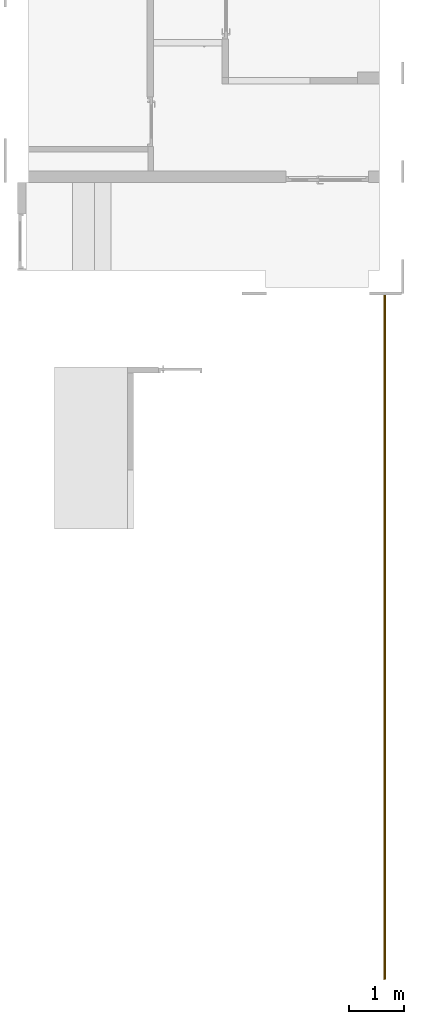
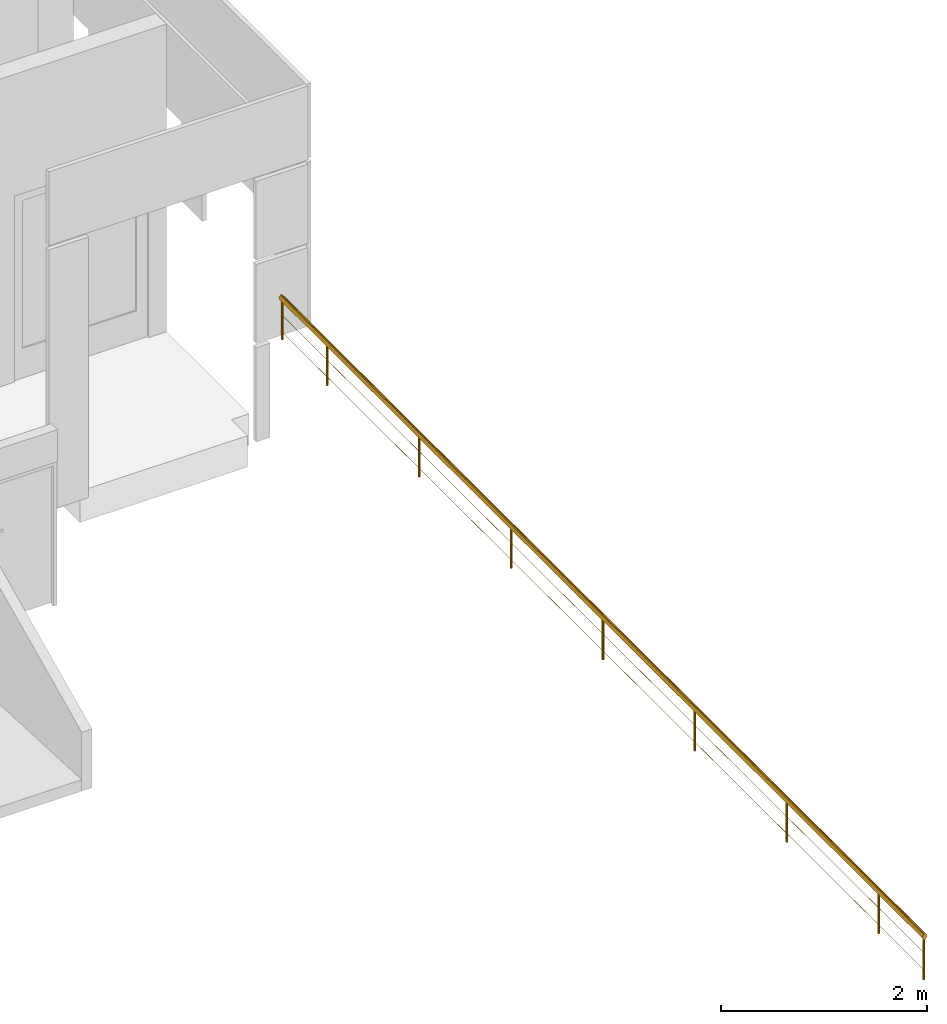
# One storey, part 8 of 15: 1 railing.
"""IFC2X3 building model written with IfcOpenShell, lengths in millimetres."""

import ifcopenshell
import ifcopenshell.guid

model = None  # the IFC model being written
_history = None  # IfcOwnerHistory: only IFC2X3 demands one
_inside = {}  # id of a spatial element -> (the spatial element, [elements in it])
_under = {}  # id of a project, library or spatial element -> (it, [spatial elements below it])
_declared = {}  # id of a project -> (the project, [libraries it declares])
_typed = {}  # id of a type object -> (the type object, [elements of that type])
_made_of = {}  # id of a material, layer set ... -> (it, [elements and type objects made of it])


def new_model(schema):
    """Start an empty IFC model of exactly this schema.

    Asked for "IFC4X3", IfcOpenShell would pick the latest addendum, in which some entities
    have other attributes; the version numbers below select the first issue.
    IFC2X3 requires an IfcOwnerHistory on every rooted entity: one is made here for all.
    """
    global model, _history
    if schema == "IFC4X3":
        model = ifcopenshell.file(schema_version=(4, 3, 0, 0))
    else:
        model = ifcopenshell.file(schema=schema)
    _inside.clear()
    _under.clear()
    _declared.clear()
    _typed.clear()
    _made_of.clear()
    _history = None
    if model.schema == "IFC2X3":
        org = make("IfcOrganization", Name="unknown")
        user = make(
            "IfcPersonAndOrganization",
            ThePerson=make("IfcPerson", FamilyName="unknown"),
            TheOrganization=org,
        )
        app = make(
            "IfcApplication",
            ApplicationDeveloper=org,
            Version="unknown",
            ApplicationFullName="unknown",
            ApplicationIdentifier="unknown",
        )
        _history = make(
            "IfcOwnerHistory",
            OwningUser=user,
            OwningApplication=app,
            ChangeAction="ADDED",
            CreationDate=0,
        )
    return model


def make(cls, **values):
    """One entity of the class cls with the attributes given. An attribute that is None is left unset."""
    return model.create_entity(
        cls, **{name: value for name, value in values.items() if value is not None}
    )


def entity(cls, *values):
    """Any entity or typed value of the class cls, its attributes in the order of the schema. None: left unset."""
    e = model.create_entity(cls)
    for i, value in enumerate(values):
        if value is not None:
            e[i] = value
    return e


def rooted(cls, **values):
    """An entity with a GlobalId (a new one), such as an element, a storey or a relation."""
    return make(cls, GlobalId=ifcopenshell.guid.new(), OwnerHistory=_history, **values)


def si_unit(unit_type, name, prefix=None):
    """IfcSIUnit, for example si_unit("LENGTHUNIT", "METRE", prefix="MILLI")."""
    return make("IfcSIUnit", UnitType=unit_type, Prefix=prefix, Name=name)


def converted_unit(unit_type, name, factor, base, dimensions=None, offset=None):
    """IfcConversionBasedUnit, such as the inch: factor (a typed value) times the base unit."""
    return make(
        "IfcConversionBasedUnit"
        if offset is None
        else "IfcConversionBasedUnitWithOffset",
        ConversionOffset=offset,
        Dimensions=None
        if dimensions is None
        else entity("IfcDimensionalExponents", *dimensions),
        UnitType=unit_type,
        Name=name,
        ConversionFactor=make(
            "IfcMeasureWithUnit", ValueComponent=factor, UnitComponent=base
        ),
    )


def derived_unit(unit_type, elements):
    """IfcDerivedUnit: a product of units, each with its exponent."""
    return make(
        "IfcDerivedUnit",
        Elements=[
            make("IfcDerivedUnitElement", Unit=unit, Exponent=power)
            for unit, power in elements
        ],
        UnitType=unit_type,
    )


def assignment(units):
    """IfcUnitAssignment: the units of a project."""
    return None if units is None else make("IfcUnitAssignment", Units=units)


def point(xyz):
    """IfcCartesianPoint."""
    return None if xyz is None else make("IfcCartesianPoint", Coordinates=xyz)


def direction(xyz):
    """IfcDirection."""
    return None if xyz is None else make("IfcDirection", DirectionRatios=xyz)


def frame(location, z_axis=None, x_axis=None):
    """IfcAxis2Placement3D, a coordinate frame: its origin and axes. An axis left out is left unset."""
    return make(
        "IfcAxis2Placement3D",
        Location=point(location),
        Axis=direction(z_axis),
        RefDirection=direction(x_axis),
    )


def frame_2d(location, x_axis=None):
    """IfcAxis2Placement2D, a coordinate frame in the plane: its origin and x axis."""
    return make(
        "IfcAxis2Placement2D", Location=point(location), RefDirection=direction(x_axis)
    )


def origin():
    """The frame at (0, 0, 0) with its axes left unset."""
    return frame((0.0, 0.0, 0.0))


def origin_2d_with_axis():
    """The frame at (0, 0) in the plane with the x axis (1, 0) written out."""
    return frame_2d((0.0, 0.0), x_axis=(1.0, 0.0))


def place(relative_to, where):
    """IfcLocalPlacement: puts the frame where relative to a parent placement (None: the world)."""
    return make(
        "IfcLocalPlacement", PlacementRelTo=relative_to, RelativePlacement=where
    )


def context(
    kind, dimensions, precision=None, world=None, true_north=None, identifier=None
):
    """IfcGeometricRepresentationContext, for example the 3D "Model" context."""
    return make(
        "IfcGeometricRepresentationContext",
        ContextIdentifier=identifier,
        ContextType=kind,
        CoordinateSpaceDimension=dimensions,
        Precision=precision,
        WorldCoordinateSystem=world,
        TrueNorth=true_north,
    )


def subcontext(parent, identifier, kind, view, scale=None):
    """IfcGeometricRepresentationSubContext, for example "Body" below "Model"."""
    return make(
        "IfcGeometricRepresentationSubContext",
        ContextIdentifier=identifier,
        ContextType=kind,
        ParentContext=parent,
        TargetScale=scale,
        TargetView=view,
    )


def project(units=None, contexts=None):
    """IfcProject with its units and contexts."""
    return rooted(
        "IfcProject",
        Name="project",
        RepresentationContexts=contexts,
        UnitsInContext=assignment(units),
    )


def spatial(cls, under=None, at=None, **own):
    """A site, building, storey or space (cls), placed at a placement, below another one or the project."""
    s = rooted(cls, ObjectPlacement=at, **own)
    if under is not None:
        _under.setdefault(under.id(), (under, []))[1].append(s)
    return s


def polyline(points):
    """IfcPolyline through the points."""
    return make("IfcPolyline", Points=[point(p) for p in points])


def profile(cls, at=None, kind="AREA", **sizes):
    """A parametric profile (cls). Its sizes go by their IFC names, for example OverallWidth=200.0."""
    return make(cls, ProfileType=kind, Position=at, **sizes)


def circle(**sizes):
    """IfcCircleProfileDef."""
    return profile("IfcCircleProfileDef", **sizes)


def outline(outer, holes=None, kind="AREA"):
    """IfcArbitraryClosedProfileDef: a profile drawn as a closed curve; with holes, ...WithVoids."""
    if holes is None:
        return make("IfcArbitraryClosedProfileDef", ProfileType=kind, OuterCurve=outer)
    return make(
        "IfcArbitraryProfileDefWithVoids",
        ProfileType=kind,
        OuterCurve=outer,
        InnerCurves=holes,
    )


def extrude(swept, where, along, depth):
    """IfcExtrudedAreaSolid: the profile swept, set in the frame where, extruded along a direction by depth."""
    return make(
        "IfcExtrudedAreaSolid",
        SweptArea=swept,
        Position=where,
        ExtrudedDirection=direction(along),
        Depth=depth,
    )


def shape(context_of_items, identifier, shape_type, items):
    """IfcShapeRepresentation: the items that make up one representation, for example the "Body"."""
    return make(
        "IfcShapeRepresentation",
        ContextOfItems=context_of_items,
        RepresentationIdentifier=identifier,
        RepresentationType=shape_type,
        Items=items,
    )


def material(Name=None, Category=None):
    """IfcMaterial."""
    return make("IfcMaterial", Name=Name, Category=Category)


def made_of(thing, what):
    """Note that an element or type object is made of a material, layer set ...; save() writes the relation."""
    if what is not None:
        _made_of.setdefault(what.id(), (what, []))[1].append(thing)
    return thing


def element(
    cls,
    number,
    at=None,
    inside=None,
    cuts=None,
    type_object=None,
    material=None,
    context=None,
    identifier="Body",
    shape_type=None,
    held_by="IfcProductDefinitionShape",
    body=None,
    shapes=None,
    **own,
):
    """One element of the class cls, such as IfcWall. Its Tag is "e" and its number.

    at: its placement. inside: the storey or other place that contains it. cuts: it is an
    opening in that element (IfcRelVoidsElement). A single representation is given by context,
    identifier, shape_type and body (its items); several are given by shapes. held_by: the class
    of the entity that holds the representations. save() writes the other relations.
    """
    e = rooted(cls, Tag="e%d" % number, ObjectPlacement=at, **own)
    if body is not None:
        shapes = [shape(context, identifier, shape_type, body)]
    if shapes is not None:
        e.Representation = make(held_by, Representations=shapes)
    if inside is not None:
        _inside.setdefault(inside.id(), (inside, []))[1].append(e)
    if cuts is not None:
        rooted(
            "IfcRelVoidsElement", RelatingBuildingElement=cuts, RelatedOpeningElement=e
        )
    if type_object is not None:
        _typed.setdefault(type_object.id(), (type_object, []))[1].append(e)
    return made_of(e, material)


def aggregate(whole, parts):
    """IfcRelAggregates: a whole, such as a stair, and the parts it consists of."""
    return rooted("IfcRelAggregates", RelatingObject=whole, RelatedObjects=parts)


def save(model, path):
    """Write the relations noted so far, then the file.

    IfcRelAggregates (storeys below a building ...), IfcRelContainedInSpatialStructure (elements
    in a storey), IfcRelDefinesByType, IfcRelAssociatesMaterial and IfcRelDeclares: one each for
    every whole, place, type object, material and project.
    """
    for whole, parts in _under.values():
        aggregate(whole, parts)
    for where, things in _inside.values():
        rooted(
            "IfcRelContainedInSpatialStructure",
            RelatedElements=things,
            RelatingStructure=where,
        )
    for kind, things in _typed.values():
        rooted("IfcRelDefinesByType", RelatedObjects=things, RelatingType=kind)
    for what, things in _made_of.values():
        rooted("IfcRelAssociatesMaterial", RelatedObjects=things, RelatingMaterial=what)
    for by, libraries in _declared.values():
        rooted("IfcRelDeclares", RelatingContext=by, RelatedDefinitions=libraries)
    model.write(path)


model = new_model("IFC2X3")

# Units and contexts
model_context = context("Model", 3, precision=0.01, world=origin(), true_north=direction((6.12303176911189e-17, 1.0)))
body_context = subcontext(model_context, "Body", "Model", "MODEL_VIEW")
ifc_project = project(units=[si_unit("LENGTHUNIT", "METRE", prefix="MILLI"), si_unit("AREAUNIT", "SQUARE_METRE"), si_unit("VOLUMEUNIT", "CUBIC_METRE"), converted_unit("PLANEANGLEUNIT", "DEGREE", entity("IfcRatioMeasure", 0.0174532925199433), si_unit("PLANEANGLEUNIT", "RADIAN"), dimensions=[0, 0, 0, 0, 0, 0, 0]), si_unit("MASSUNIT", "GRAM", prefix="KILO"), derived_unit("MASSDENSITYUNIT", [(si_unit("MASSUNIT", "GRAM", prefix="KILO"), 1), (si_unit("LENGTHUNIT", "METRE"), -3)]), si_unit("TIMEUNIT", "SECOND"), si_unit("FREQUENCYUNIT", "HERTZ"), si_unit("THERMODYNAMICTEMPERATUREUNIT", "DEGREE_CELSIUS"), derived_unit("THERMALTRANSMITTANCEUNIT", [(si_unit("MASSUNIT", "GRAM", prefix="KILO"), 1), (si_unit("THERMODYNAMICTEMPERATUREUNIT", "KELVIN"), -1), (si_unit("TIMEUNIT", "SECOND"), -3)]), derived_unit("VOLUMETRICFLOWRATEUNIT", [(si_unit("LENGTHUNIT", "METRE"), 3), (si_unit("TIMEUNIT", "SECOND"), -1)]), si_unit("ELECTRICCURRENTUNIT", "AMPERE"), si_unit("ELECTRICVOLTAGEUNIT", "VOLT"), si_unit("POWERUNIT", "WATT"), si_unit("FORCEUNIT", "NEWTON", prefix="KILO"), si_unit("ILLUMINANCEUNIT", "LUX"), si_unit("LUMINOUSFLUXUNIT", "LUMEN"), si_unit("LUMINOUSINTENSITYUNIT", "CANDELA"), derived_unit("USERDEFINED", [(si_unit("MASSUNIT", "GRAM", prefix="KILO"), -1), (si_unit("LENGTHUNIT", "METRE"), -2), (si_unit("TIMEUNIT", "SECOND"), 3), (si_unit("LUMINOUSFLUXUNIT", "LUMEN"), 1)]), derived_unit("LINEARVELOCITYUNIT", [(si_unit("LENGTHUNIT", "METRE"), 1), (si_unit("TIMEUNIT", "SECOND"), -1)]), si_unit("PRESSUREUNIT", "PASCAL"), derived_unit("USERDEFINED", [(si_unit("LENGTHUNIT", "METRE"), -2), (si_unit("MASSUNIT", "GRAM", prefix="KILO"), 1), (si_unit("TIMEUNIT", "SECOND"), -2)])], contexts=[model_context])

# Site, building, storey
site_placement = place(None, frame((-151.875543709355, 2715.0, 0.0)))
site = spatial("IfcSite", under=ifc_project, at=site_placement, Name="Surface", CompositionType="ELEMENT")
building_placement = place(site_placement, origin())
building = spatial("IfcBuilding", under=site, at=building_placement, CompositionType="ELEMENT")
storey_placement = place(building_placement, frame((0.0, 0.0, -135.0)))
storey = spatial("IfcBuildingStorey", under=building, at=storey_placement, Name="uus 1 korrus", CompositionType="ELEMENT", Elevation=-134.99999999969)

# Railing
ifc_material = material(Name="__Tumehall")
railing_placement = place(storey_placement, origin())
element("IfcRailing", 1, at=railing_placement, inside=storey, material=ifc_material, Name="Railing:500mm trossidega piire", ObjectType="Railing:500mm trossidega piire", PredefinedType="NOTDEFINED", context=body_context, shape_type="SweptSolid", body=[
    extrude(circle(Radius=12.5, at=origin_2d_with_axis()), frame((38496.623876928, 11868.8889898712, 1115.0), z_axis=(0.0, 0.0, 1.0), x_axis=(-1.0, 0.0, 0.0)), (0.0, 0.0, 1.0), 464.466919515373),
    extrude(circle(Radius=12.5, at=origin_2d_with_axis()), frame((38496.623876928, 10086.7461327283, 1115.0), z_axis=(0.0, 0.0, 1.0), x_axis=(-1.0, 0.0, 0.0)), (0.0, 0.0, 1.0), 464.466919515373),
    extrude(circle(Radius=12.5, at=origin_2d_with_axis()), frame((38496.6238769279, 8304.6032755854, 1115.0), z_axis=(0.0, 0.0, 1.0), x_axis=(-1.0, 0.0, 0.0)), (0.0, 0.0, 1.0), 464.466919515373),
    extrude(circle(Radius=12.5, at=origin_2d_with_axis()), frame((38496.6238769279, 6522.46041844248, 1115.0), z_axis=(0.0, 0.0, 1.0), x_axis=(-1.0, 0.0, 0.0)), (0.0, 0.0, 1.0), 464.466919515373),
    extrude(circle(Radius=12.5, at=origin_2d_with_axis()), frame((38496.6238769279, 4740.31756129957, 1115.0), z_axis=(0.0, 0.0, 1.0), x_axis=(-1.0, 0.0, 0.0)), (0.0, 0.0, 1.0), 464.466919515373),
    extrude(circle(Radius=12.5, at=origin_2d_with_axis()), frame((38496.6238769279, 2958.17470415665, 1115.0), z_axis=(0.0, 0.0, 1.0), x_axis=(-1.0, 0.0, 0.0)), (0.0, 0.0, 1.0), 464.466919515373),
    extrude(circle(Radius=12.5, at=origin_2d_with_axis()), frame((38496.6238769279, 1176.03184701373, 1115.0), z_axis=(0.0, 0.0, 1.0), x_axis=(-1.0, 0.0, 0.0)), (0.0, 0.0, 1.0), 464.466919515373),
    extrude(circle(Radius=12.5, at=origin_2d_with_axis()), frame((38509.123876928, 12759.9604184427, 1115.0), z_axis=(0.0, 0.0, 1.0), x_axis=(-1.0, 0.0, 0.0)), (0.0, 0.0, 1.0), 464.466919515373),
    extrude(circle(Radius=12.5, at=origin_2d_with_axis()), frame((38484.1238769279, 284.960418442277, 1115.0), z_axis=(0.0, 0.0, 1.0), x_axis=(-1.0, 0.0, 0.0)), (0.0, 0.0, 1.0), 464.466919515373),
    extrude(outline(polyline([(-4.97609767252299, -34.644457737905), (-0.245878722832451, -34.644457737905), (9.06076334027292, -30.7015201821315), (16.9879863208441, -22.0845544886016), (22.328942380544, -10.1054155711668), (23.7561995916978, -3.41218126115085), (24.2705193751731, 3.4121812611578), (22.5171298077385, 16.4103044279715), (17.3357113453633, 26.9101075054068), (9.51508797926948, 33.3130906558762), (4.97609767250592, 34.644457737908), (0.245878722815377, 34.644457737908), (-9.06076334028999, 30.7015201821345), (-16.9879863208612, 22.0845544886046), (-22.3289423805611, 10.1054155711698), (-23.7561995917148, 3.41218126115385), (-24.2705193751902, -3.41218126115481), (-22.5171298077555, -16.4103044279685), (-17.3357113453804, -26.9101075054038), (-9.51508797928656, -33.3130906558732), (-4.97609767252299, -34.644457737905)])), frame((38496.6238769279, 284.960418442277, 1615.0), z_axis=(0.0, 1.0, 0.0), x_axis=(0.989841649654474, 0.0, -0.142174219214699)), (0.0, 0.0, 1.0), 12475.0000000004),
    extrude(circle(Radius=2.0, at=origin_2d_with_axis()), frame((38496.6238769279, 284.960418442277, 1413.0), z_axis=(0.0, 1.0, 0.0), x_axis=(1.0, 0.0, 0.0)), (0.0, 0.0, 1.0), 12475.0000000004),
    extrude(circle(Radius=2.0, at=frame_2d((0.0, -1.35358391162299e-13), x_axis=(1.0, 0.0))), frame((38496.6238769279, 284.960418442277, 1213.0), z_axis=(0.0, 1.0, 0.0), x_axis=(1.0, 0.0, 0.0)), (0.0, 0.0, 1.0), 12475.0000000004),
])

save(model, "model.ifc")
